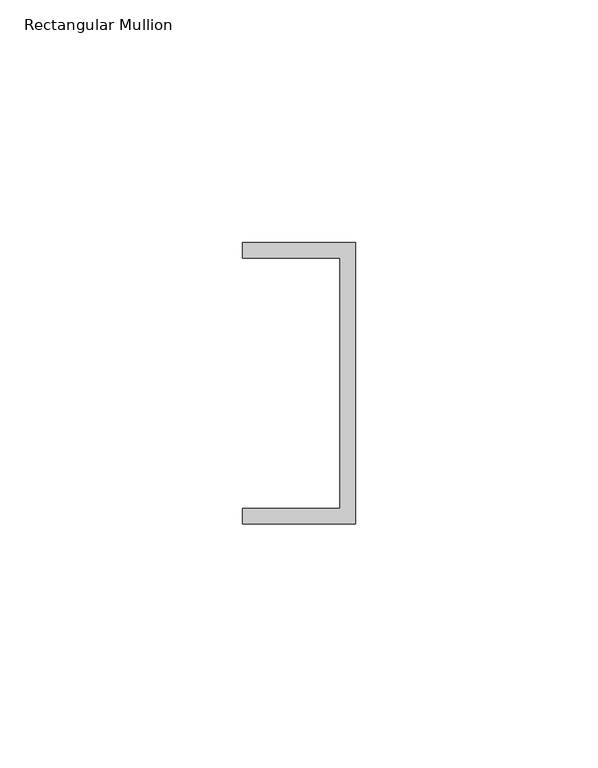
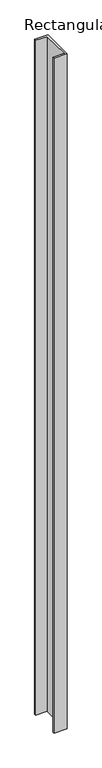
"""IFC4 building model written with IfcOpenShell, lengths in millimetres: member geometry, Rectangular Mullion : Frame-Teknion-Altos-Base_Channel."""

from ifc_helpers import new_model, si_unit, frame, origin, place, context, project, spatial, polyline, outline, extrude, source, transform, mapped, element, save


def rectangular_mullion_1a38ffc7(model_context):
    return source(origin(), model_context, "Body", "SweptSolid", [
        extrude(outline(polyline([(0.0, 29.0214844), (0.0, -29.0214844), (-23.3164063, -29.0214844), (-23.3164063, -25.8464844), (-3.175, -25.8464844), (-3.175, 25.8464844), (-23.3164063, 25.8464844), (-23.3164063, 29.0214844), (0.0, 29.0214844)])), frame((0.0, 0.0, -1248.3703125), z_axis=(0.0, 0.0, 1.0), x_axis=(1.0, 0.0, 0.0)), (0.0, 0.0, 1.0), 1248.3703125),
    ])


if __name__ == "__main__":
    model = new_model("IFC4")
    model_context = context("Model", 3, world=origin())
    ifc_project = project(units=[si_unit("LENGTHUNIT", "METRE", prefix="MILLI")], contexts=[model_context])
    site = spatial("IfcSite", under=ifc_project)
    building = spatial("IfcBuilding", under=site)
    placement = place(None, origin())
    rectangular_mullion_shape = rectangular_mullion_1a38ffc7(model_context)
    element("IfcMember", 1, ObjectType="Rectangular Mullion : Frame-Teknion-Altos-Base_Channel", at=placement, inside=building, context=model_context, shape_type="MappedRepresentation", body=[
        mapped(rectangular_mullion_shape, transform((0.0, 0.0, 0.0), x_axis=(1.0, 0.0, 0.0), y_axis=(0.0, 1.0, 0.0), z_axis=(0.0, 0.0, 1.0))),
    ])
    save(model, "model.ifc")
